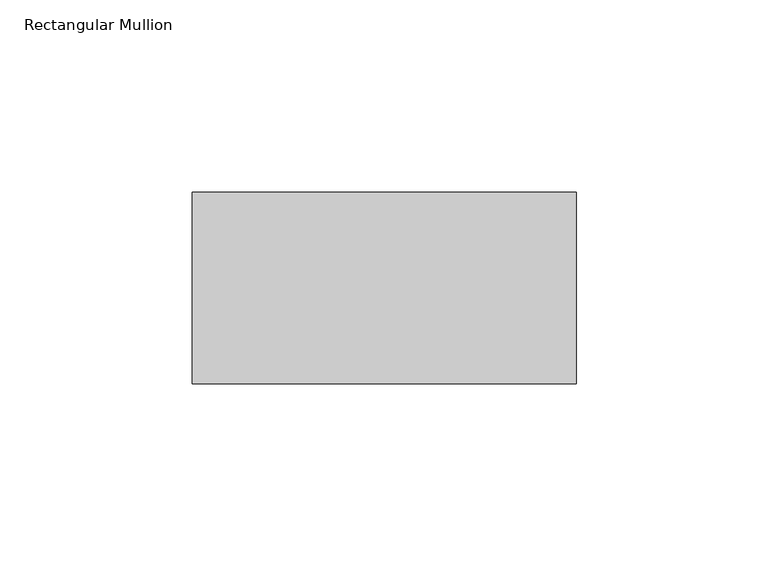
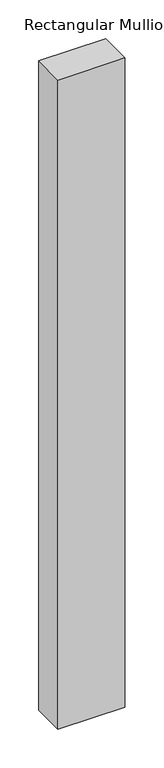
"""IFC4 building model written with IfcOpenShell, lengths in millimetres: member geometry, Rectangular Mullion : Mullion_Curtain Wall_Generic Showcase_50x100mm."""

from ifc_helpers import new_model, si_unit, frame, origin, place, context, project, spatial, polyline, outline, extrude, source, transform, mapped, element, save


def rectangular_mullion_3236e8af(model_context):
    return source(origin(), model_context, "Body", "SweptSolid", [
        extrude(outline(polyline([(0.0, 50.0), (0.0, 0.0), (-100.0, 0.0), (-100.0, 50.0), (0.0, 50.0)])), frame((0.0, 0.0, -1025.0), z_axis=(0.0, 0.0, 1.0), x_axis=(1.0, 0.0, 0.0)), (0.0, 0.0, 1.0), 1025.0),
    ])


if __name__ == "__main__":
    model = new_model("IFC4")
    model_context = context("Model", 3, world=origin())
    ifc_project = project(units=[si_unit("LENGTHUNIT", "METRE", prefix="MILLI")], contexts=[model_context])
    site = spatial("IfcSite", under=ifc_project)
    building = spatial("IfcBuilding", under=site)
    placement = place(None, origin())
    rectangular_mullion_shape = rectangular_mullion_3236e8af(model_context)
    element("IfcMember", 1, ObjectType="Rectangular Mullion : Mullion_Curtain Wall_Generic Showcase_50x100mm", at=placement, inside=building, context=model_context, shape_type="MappedRepresentation", body=[
        mapped(rectangular_mullion_shape, transform((0.0, 0.0, 0.0), x_axis=(1.0, 0.0, 0.0), y_axis=(0.0, 1.0, 0.0), z_axis=(0.0, 0.0, 1.0))),
    ])
    save(model, "model.ifc")
